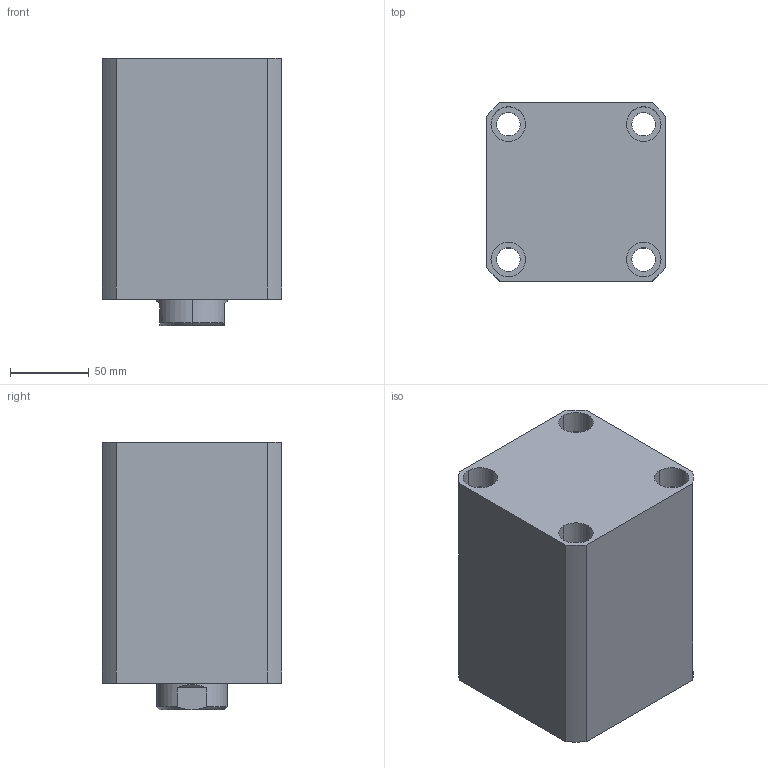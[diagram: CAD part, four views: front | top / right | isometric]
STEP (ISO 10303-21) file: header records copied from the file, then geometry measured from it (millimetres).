
FILE_DESCRIPTION (( 'STEP AP214' ), '1' );
FILE_NAME ('chtb-sdma80x75n_asm.STEP', '2018-05-29T02:21:27', ( 'Windows' ), ( 'Microsoft' ), 'SwSTEP 2.0', 'SolidWorks 2015', '' );
FILE_SCHEMA (( 'AUTOMOTIVE_DESIGN' ));
Length unit declared in the file: millimetre
Products named in the file (4): CHTB-SDMA80X75NBT; CHTB-SD80X75NHSG; CHTB-SD80QG; chtb-sdma80x75n_asm
Assembly tree (3 placements, depth 2):
  chtb-sdma80x75n_asm
    CHTB-SD80QG
    CHTB-SD80X75NHSG
    CHTB-SDMA80X75NBT
Bounding box: 114 x 114 x 170 mm (x, y, z)
Volume: 1559556.7 mm3; surface area: 227782.7 mm2
Topology: 3 solids, 3 shells, 190 faces, 516 edges, 345 vertices
Faces by surface type: cylinder 107, plane 35, torus 18, cone 16, bspline 14
Entity records: 15170 total; most frequent: CARTESIAN_POINT 10463, ORIENTED_EDGE 1020, DIRECTION 879, EDGE_CURVE 510, AXIS2_PLACEMENT_3D 368, VERTEX_POINT 345, EDGE_LOOP 227, ADVANCED_FACE 190
